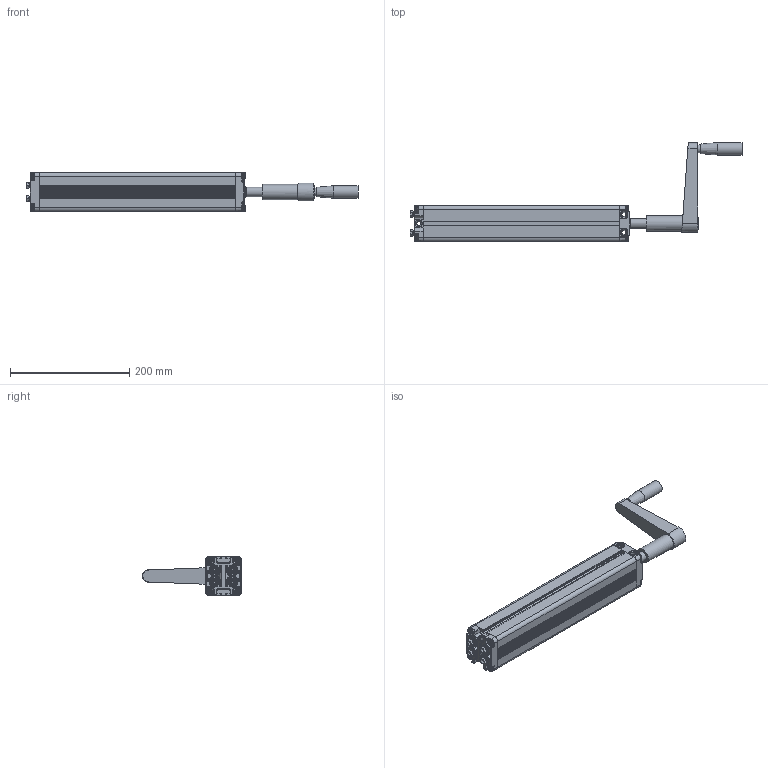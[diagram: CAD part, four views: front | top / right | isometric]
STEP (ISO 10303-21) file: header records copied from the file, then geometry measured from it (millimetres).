
FILE_DESCRIPTION(/* description */ ('Unknown'),/* implementation_level */ '2;1');
FILE_NAME(/* name */ '313.20032 Pumpe PF 4820 W mit Handkurbel',/* time_stamp */ '2018-01-19T16:01:07+01:00',/* author */ ('Unknown'),/* organization */ ('Unknown'),/* preprocessor_version */ 'ST-DEVELOPER v16.7',/* originating_system */ 'DEX',/* authorisation */ $);
FILE_SCHEMA (('AUTOMOTIVE_DESIGN {1 0 10303 214 3 1 1}'));
Products named in the file (29): 103.20032; 115.10052_oa_0; 125.00126; 115.00008_oa_1; 142.00021; 125.00021; 113.00005; 128.00001; 125.00052; 126.00013; 125.00053; 142.00077; 127.00014; 142.00244; Handgriff; 115.10052_oa_2; 115.00008_oa_3; 142.00013; 115.10052_oa_4; 115.00008_oa_5; 115.10052_oa_6; 115.00008_oa_7; 142.00057; 125.00142; 115.00141; 126.00076; 122.00040; 119.00352; 126.00075
Assembly tree (44 placements, depth 3):
  103.20032
    115.10052_oa_0
      125.00126
      115.00008_oa_1
      142.00021
      125.00021
    113.00005
      128.00001
      125.00052
      126.00013
      125.00053
      142.00077
      127.00014
      142.00244
      Handgriff
    115.10052_oa_2
      125.00126
      115.00008_oa_3
      142.00021
      125.00021
    142.00013  x8
    115.10052_oa_4
      125.00126
      115.00008_oa_5
      142.00021
      125.00021
    115.10052_oa_6
      125.00126
      115.00008_oa_7
      142.00021
      125.00021
    142.00057
    125.00142
    115.00141
      126.00076
      122.00040
    119.00352
    126.00075
Bounding box: 555.72 x 165.5 x 65 mm (x, y, z)
Volume: 596055.2 mm3; surface area: 323175.2 mm2
Topology: 34 solids, 34 shells, 2446 faces, 5968 edges, 3580 vertices
Faces by surface type: plane 977, cylinder 561, bspline 455, cone 334, torus 107, sphere 12
Full cylindrical faces by diameter (mm): 3.5 x4, 4 x2, 4.1 x4, 4.2 x5, 4.917 x2, 5 x8, 6 x1, 6.917 x8, 8 x10, 9.8 x8, 10 x4, 10.4 x1, 12.8 x1, 13 x5, 14 x2, 14.4 x4, 16 x2, 17 x1, 17.9 x8, 18 x1, 19 x1, 20.6 x1, 21 x1, 22 x1, 25.5 x1
Entity records: 79143 total; most frequent: CARTESIAN_POINT 39240, ORIENTED_EDGE 8370, DIRECTION 6895, EDGE_CURVE 4185, VERTEX_POINT 2687, AXIS2_PLACEMENT_3D 2430, LINE 2035, VECTOR 2035
